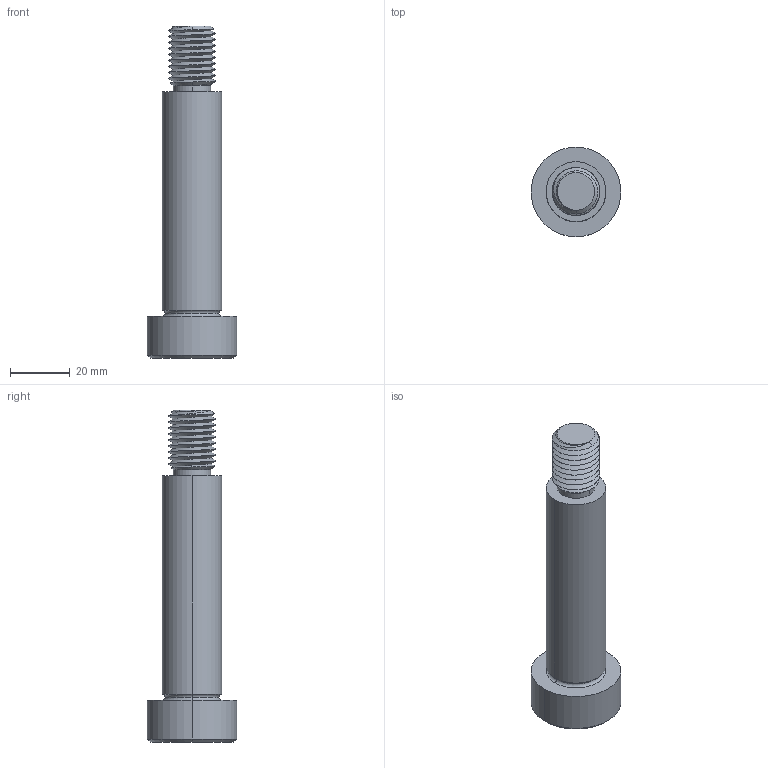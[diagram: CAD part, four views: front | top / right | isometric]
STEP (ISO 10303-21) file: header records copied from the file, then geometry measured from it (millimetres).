
FILE_DESCRIPTION (( 'STEP AP203' ), '1' );
FILE_NAME ('P0130.200-075-B2.step', '2021-11-09T22:26:06', ( '' ), ( '' ), 'SwSTEP 2.0', 'SolidWorks 2019', '' );
FILE_SCHEMA (( 'CONFIG_CONTROL_DESIGN' ));
Length unit declared in the file: millimetre
Products named in the file (1): P0130.200-075-B2
Bounding box: 30 x 30 x 111 mm (x, y, z)
Volume: 35762.2 mm3; surface area: 9616.3 mm2
Topology: 1 solids, 1 shells, 60 faces, 142 edges, 85 vertices
Faces by surface type: cylinder 24, plane 16, cone 14, torus 4, bspline 2
Entity records: 5678 total; most frequent: CARTESIAN_POINT 4332, ORIENTED_EDGE 280, DIRECTION 247, EDGE_CURVE 140, AXIS2_PLACEMENT_3D 99, VERTEX_POINT 85, EDGE_LOOP 63, ADVANCED_FACE 60
